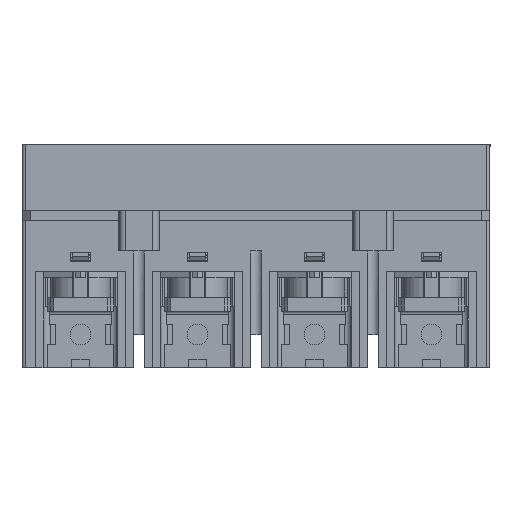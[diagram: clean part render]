
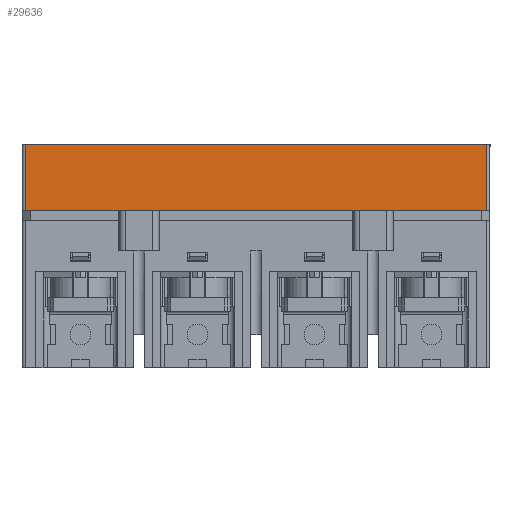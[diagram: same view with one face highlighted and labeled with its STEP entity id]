
A CAD part, front view. The second image highlights one B-rep face of the part: STEP entity #29636.
In plain terms, the highlighted planar face has unit normal (0, -1, 0) as drawn and (-1, 0, 0) by its records, which use the part's own axes.
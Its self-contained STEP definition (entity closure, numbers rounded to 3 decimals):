
#164 = ORIENTED_EDGE ( 'NONE', *, *, #47305, .F. ) ;
#1515 = CARTESIAN_POINT ( 'NONE',  ( -41.75, 104.2, -80.8 ) ) ;
#4123 = CARTESIAN_POINT ( 'NONE',  ( -41.75, -33.8, -100.8 ) ) ;
#4843 = FACE_OUTER_BOUND ( 'NONE', #31047, .T. ) ;
#5069 = EDGE_CURVE ( 'NONE', #27811, #16683, #20042, .T. ) ;
#5617 = CARTESIAN_POINT ( 'NONE',  ( -41.75, -33.8, -80.8 ) ) ;
#5805 = AXIS2_PLACEMENT_3D ( 'NONE', #48272, #21029, #44420 ) ;
#6475 = CARTESIAN_POINT ( 'NONE',  ( -41.75, 104.2, -80.8 ) ) ;
#6783 = CARTESIAN_POINT ( 'NONE',  ( -41.75, 104.2, -100.8 ) ) ;
#7495 = CARTESIAN_POINT ( 'NONE',  ( -41.75, 104.2, -100.8 ) ) ;
#8144 = ORIENTED_EDGE ( 'NONE', *, *, #5069, .F. ) ;
#11113 = LINE ( 'NONE', #7495, #26022 ) ;
#16683 = VERTEX_POINT ( 'NONE', #5617 ) ;
#17155 = EDGE_CURVE ( 'NONE', #26689, #46827, #28445, .T. ) ;
#19064 = ORIENTED_EDGE ( 'NONE', *, *, #44287, .F. ) ;
#20042 = LINE ( 'NONE', #1515, #33552 ) ;
#20530 = PLANE ( 'NONE',  #5805 ) ;
#20795 = DIRECTION ( 'NONE',  ( 0., -1., 0. ) ) ;
#20828 = VECTOR ( 'NONE', #29515, 1000. ) ;
#21029 = DIRECTION ( 'NONE',  ( 1., 0., 0. ) ) ;
#24888 = LINE ( 'NONE', #28738, #20828 ) ;
#26022 = VECTOR ( 'NONE', #38347, 1000. ) ;
#26689 = VERTEX_POINT ( 'NONE', #4123 ) ;
#27811 = VERTEX_POINT ( 'NONE', #6475 ) ;
#28445 = LINE ( 'NONE', #45154, #44448 ) ;
#28738 = CARTESIAN_POINT ( 'NONE',  ( -41.75, -33.8, -80.8 ) ) ;
#29515 = DIRECTION ( 'NONE',  ( 0., 0., -1. ) ) ;
#29636 = ADVANCED_FACE ( 'NONE', ( #4843 ), #20530, .F. ) ;
#31047 = EDGE_LOOP ( 'NONE', ( #164, #33948, #19064, #8144 ) ) ;
#33552 = VECTOR ( 'NONE', #20795, 1000. ) ;
#33948 = ORIENTED_EDGE ( 'NONE', *, *, #17155, .F. ) ;
#38347 = DIRECTION ( 'NONE',  ( 0., 0., 1. ) ) ;
#44287 = EDGE_CURVE ( 'NONE', #16683, #26689, #24888, .T. ) ;
#44420 = DIRECTION ( 'NONE',  ( 0., 1., 0. ) ) ;
#44448 = VECTOR ( 'NONE', #48487, 1000. ) ;
#45154 = CARTESIAN_POINT ( 'NONE',  ( -41.75, -33.8, -100.8 ) ) ;
#46827 = VERTEX_POINT ( 'NONE', #6783 ) ;
#47305 = EDGE_CURVE ( 'NONE', #46827, #27811, #11113, .T. ) ;
#48272 = CARTESIAN_POINT ( 'NONE',  ( -41.75, 0.2, -80.8 ) ) ;
#48487 = DIRECTION ( 'NONE',  ( 0., 1., 0. ) ) ;
